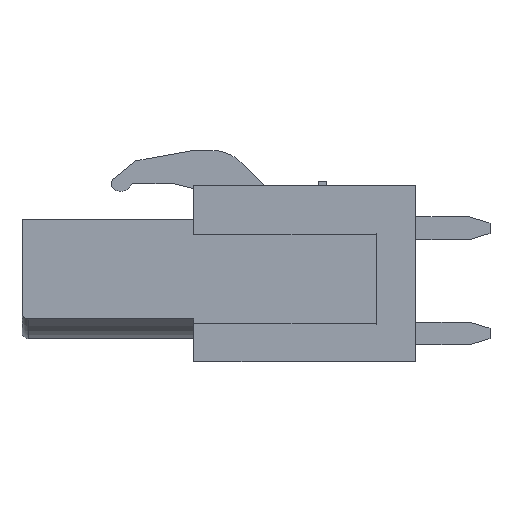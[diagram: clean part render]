
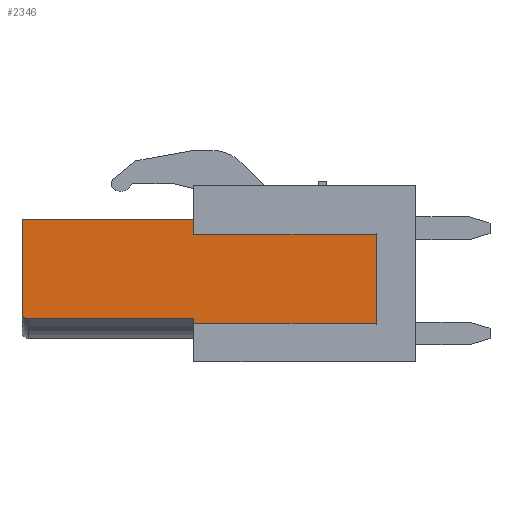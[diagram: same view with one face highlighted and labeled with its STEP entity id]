
A CAD part, left-side view. The second image highlights one B-rep face of the part: STEP entity #2346.
In plain terms, the highlighted planar face has unit normal (-1, 0, 0).
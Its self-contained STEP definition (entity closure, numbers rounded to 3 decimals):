
#2346=ADVANCED_FACE('',(#6958),#6960,.F.);
#6958=FACE_BOUND('',#6959,.T.);
#6959=EDGE_LOOP('',(#10658,#10659,#10660,#10661,#10662,#10663,#10664,#10665,#10666));
#6960=PLANE('',#6961);
#6961=AXIS2_PLACEMENT_3D('',#6962,#6963,#6964);
#6962=CARTESIAN_POINT('',(1.,10.7,6.65));
#6963=DIRECTION('',(1.,0.,0.));
#6964=DIRECTION('',(0.,0.,-1.));
#10658=ORIENTED_EDGE('',*,*,#12949,.F.);
#10659=ORIENTED_EDGE('',*,*,#12220,.T.);
#10660=ORIENTED_EDGE('',*,*,#12948,.T.);
#10661=ORIENTED_EDGE('',*,*,#12950,.F.);
#10662=ORIENTED_EDGE('',*,*,#12951,.F.);
#10663=ORIENTED_EDGE('',*,*,#12188,.F.);
#10664=ORIENTED_EDGE('',*,*,#12952,.T.);
#10665=ORIENTED_EDGE('',*,*,#12112,.F.);
#10666=ORIENTED_EDGE('',*,*,#12953,.T.);
#12112=EDGE_CURVE('',#13588,#13590,#13591,.T.);
#12188=EDGE_CURVE('',#13738,#13740,#13741,.T.);
#12220=EDGE_CURVE('',#13804,#13802,#13805,.T.);
#12948=EDGE_CURVE('',#13802,#15035,#15037,.T.);
#12949=EDGE_CURVE('',#13804,#15038,#15039,.T.);
#12950=EDGE_CURVE('',#15040,#15035,#15041,.T.);
#12951=EDGE_CURVE('',#13740,#15040,#15042,.T.);
#12952=EDGE_CURVE('',#13738,#13590,#15043,.T.);
#12953=EDGE_CURVE('',#13588,#15038,#15044,.T.);
#13588=VERTEX_POINT('',#16070);
#13590=VERTEX_POINT('',#16074);
#13591=LINE('',#16075,#16076);
#13738=VERTEX_POINT('',#17004);
#13740=VERTEX_POINT('',#17008);
#13741=LINE('',#17009,#17010);
#13802=VERTEX_POINT('',#17132);
#13804=VERTEX_POINT('',#17136);
#13805=LINE('',#17137,#17138);
#15035=VERTEX_POINT('',#19900);
#15037=LINE('',#19904,#19905);
#15038=VERTEX_POINT('',#19907);
#15039=LINE('',#19908,#19909);
#15040=VERTEX_POINT('',#19911);
#15041=LINE('',#19912,#19913);
#15042=LINE('',#19915,#19916);
#15043=LINE('',#19918,#19919);
#15044=CIRCLE('',#19921,0.3);
#16070=CARTESIAN_POINT('',(1.,19.,2.36));
#16074=CARTESIAN_POINT('',(1.,19.,6.86));
#16075=CARTESIAN_POINT('',(1.,19.,2.36));
#16076=VECTOR('',#16077,1.);
#16077=DIRECTION('',(0.,0.,1.));
#17004=CARTESIAN_POINT('',(1.,10.7,6.86));
#17008=CARTESIAN_POINT('',(1.,10.7,6.65));
#17009=CARTESIAN_POINT('',(1.,10.7,6.86));
#17010=VECTOR('',#17011,1.);
#17011=DIRECTION('',(0.,0.,-1.));
#17132=CARTESIAN_POINT('',(1.,10.7,1.35));
#17136=CARTESIAN_POINT('',(1.,10.7,2.06));
#17137=CARTESIAN_POINT('',(1.,10.7,2.06));
#17138=VECTOR('',#17139,1.);
#17139=DIRECTION('',(0.,0.,-1.));
#19900=CARTESIAN_POINT('',(1.,1.9,1.35));
#19904=CARTESIAN_POINT('',(1.,10.7,1.35));
#19905=VECTOR('',#19906,1.);
#19906=DIRECTION('',(0.,-1.,0.));
#19907=CARTESIAN_POINT('',(1.,18.7,2.06));
#19908=CARTESIAN_POINT('',(1.,10.7,2.06));
#19909=VECTOR('',#19910,1.);
#19910=DIRECTION('',(0.,1.,0.));
#19911=CARTESIAN_POINT('',(1.,1.9,6.65));
#19912=CARTESIAN_POINT('',(1.,1.9,6.65));
#19913=VECTOR('',#19914,1.);
#19914=DIRECTION('',(0.,0.,-1.));
#19915=CARTESIAN_POINT('',(1.,10.7,6.65));
#19916=VECTOR('',#19917,1.);
#19917=DIRECTION('',(0.,-1.,0.));
#19918=CARTESIAN_POINT('',(1.,10.7,6.86));
#19919=VECTOR('',#19920,1.);
#19920=DIRECTION('',(0.,1.,0.));
#19921=AXIS2_PLACEMENT_3D('',#19922,#19923,#19924);
#19922=CARTESIAN_POINT('',(1.,18.7,2.36));
#19923=DIRECTION('',(-1.,0.,0.));
#19924=DIRECTION('',(0.,1.,0.));
